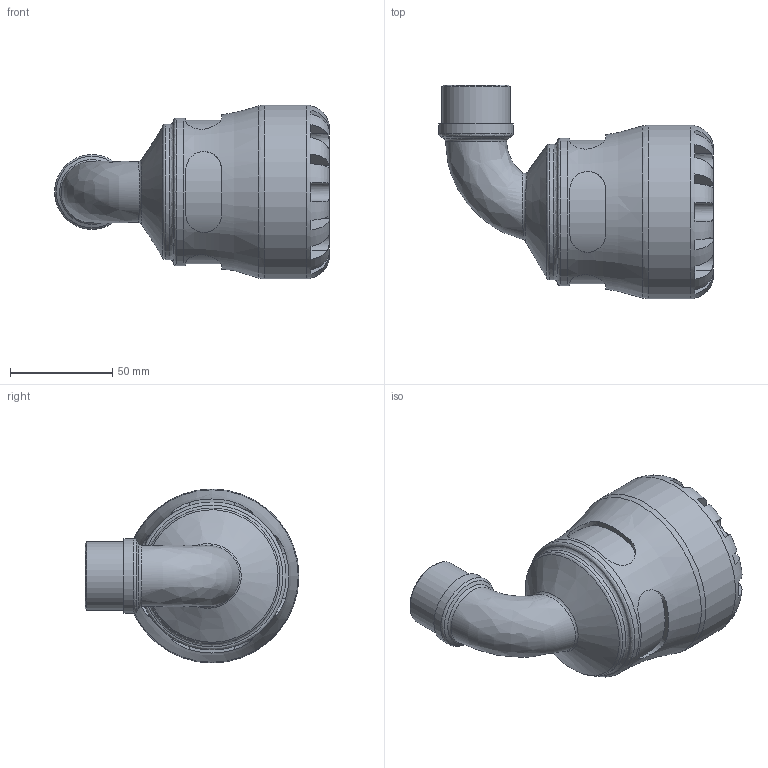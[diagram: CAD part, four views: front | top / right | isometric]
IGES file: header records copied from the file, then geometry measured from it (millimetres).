
Global section: file name: 107700050010_197700050010.ipt; native system: Autodesk Inventor 2015; preprocessor: unknown; author: KIM; date: 20180513.110418; units: millimetre
Bounding box: 134.29 x 104.5 x 85 mm (x, y, z)
Volume: 268755.8 mm3; surface area: 56955.2 mm2
Topology: 1 solids, 1 shells, 111 faces, 286 edges, 182 vertices
Faces by surface type: plane 60, revolution 27, cylinder 17, bspline 5, cone 2
Full cylindrical faces by diameter (mm): 33.249 x1, 36.574 x1, 66.3 x1, 72.25 x1, 85 x1
